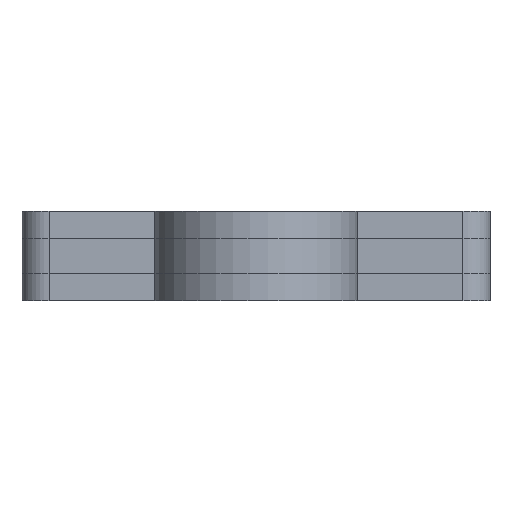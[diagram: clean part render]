
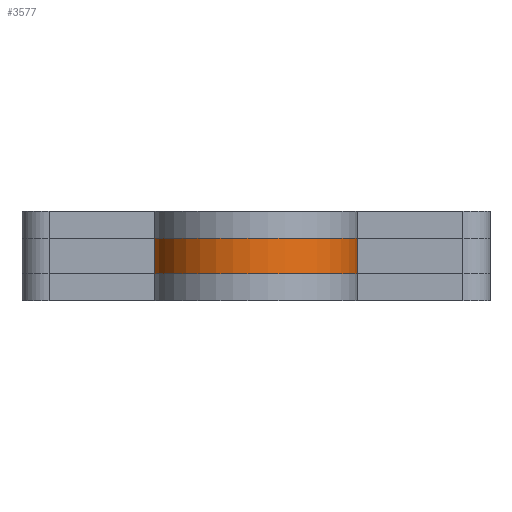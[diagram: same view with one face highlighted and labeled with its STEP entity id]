
A CAD part, left-side view. The second image highlights one B-rep face of the part: STEP entity #3577.
In plain terms, the highlighted cylindrical face has radius 3 mm (diameter 6 mm), a partial arc.
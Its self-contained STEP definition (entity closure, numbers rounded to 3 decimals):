
#367 = CYLINDRICAL_SURFACE('',#368,3.);
#368 = AXIS2_PLACEMENT_3D('',#369,#370,#371);
#369 = CARTESIAN_POINT('',(-11.5,-13.238,-6.025));
#370 = DIRECTION('',(0.,0.,1.));
#371 = DIRECTION('',(-0.993,-0.116,0.));
#1587 = VERTEX_POINT('',#1588);
#1588 = CARTESIAN_POINT('',(-8.75,-14.437,-5.9));
#1623 = PLANE('',#1624);
#1624 = AXIS2_PLACEMENT_3D('',#1625,#1626,#1627);
#1625 = CARTESIAN_POINT('',(-8.75,-19.338,-6.35));
#1626 = DIRECTION('',(-1.,0.,0.));
#1627 = DIRECTION('',(0.,1.,0.));
#1694 = VERTEX_POINT('',#1695);
#1695 = CARTESIAN_POINT('',(-9.1,-11.438,-5.9));
#1716 = EDGE_CURVE('',#1694,#1587,#1717,.T.);
#1717 = SURFACE_CURVE('',#1718,(#1723,#1730),.PCURVE_S1.);
#1718 = CIRCLE('',#1719,3.);
#1719 = AXIS2_PLACEMENT_3D('',#1720,#1721,#1722);
#1720 = CARTESIAN_POINT('',(-11.5,-13.238,-5.9));
#1721 = DIRECTION('',(0.,0.,1.));
#1722 = DIRECTION('',(1.,0.,0.));
#1723 = PCURVE('',#367,#1724);
#1724 = DEFINITIONAL_REPRESENTATION('',(#1725),#1729);
#1725 = LINE('',#1726,#1727);
#1726 = CARTESIAN_POINT('',(-3.258,0.125));
#1727 = VECTOR('',#1728,1.);
#1728 = DIRECTION('',(1.,0.));
#1729 = ( GEOMETRIC_REPRESENTATION_CONTEXT(2) 
PARAMETRIC_REPRESENTATION_CONTEXT() REPRESENTATION_CONTEXT('2D SPACE',''
  ) );
#1730 = PCURVE('',#1731,#1736);
#1731 = CYLINDRICAL_SURFACE('',#1732,3.);
#1732 = AXIS2_PLACEMENT_3D('',#1733,#1734,#1735);
#1733 = CARTESIAN_POINT('',(-11.5,-13.238,-6.025));
#1734 = DIRECTION('',(0.,0.,1.));
#1735 = DIRECTION('',(-0.993,-0.116,0.));
#1736 = DEFINITIONAL_REPRESENTATION('',(#1737),#1741);
#1737 = LINE('',#1738,#1739);
#1738 = CARTESIAN_POINT('',(-3.258,0.125));
#1739 = VECTOR('',#1740,1.);
#1740 = DIRECTION('',(1.,0.));
#1741 = ( GEOMETRIC_REPRESENTATION_CONTEXT(2) 
PARAMETRIC_REPRESENTATION_CONTEXT() REPRESENTATION_CONTEXT('2D SPACE',''
  ) );
#1817 = PLANE('',#1818);
#1818 = AXIS2_PLACEMENT_3D('',#1819,#1820,#1821);
#1819 = CARTESIAN_POINT('',(-9.1,-12.25,-6.025));
#1820 = DIRECTION('',(1.,0.,0.));
#1821 = DIRECTION('',(0.,0.,-1.));
#3474 = EDGE_CURVE('',#1587,#3475,#3477,.T.);
#3475 = VERTEX_POINT('',#3476);
#3476 = CARTESIAN_POINT('',(-8.75,-14.437,-6.95));
#3477 = SURFACE_CURVE('',#3478,(#3482,#3489),.PCURVE_S1.);
#3478 = LINE('',#3479,#3480);
#3479 = CARTESIAN_POINT('',(-8.75,-14.437,-6.025));
#3480 = VECTOR('',#3481,1.);
#3481 = DIRECTION('',(0.,0.,-1.));
#3482 = PCURVE('',#1623,#3483);
#3483 = DEFINITIONAL_REPRESENTATION('',(#3484),#3488);
#3484 = LINE('',#3485,#3486);
#3485 = CARTESIAN_POINT('',(4.901,-0.325));
#3486 = VECTOR('',#3487,1.);
#3487 = DIRECTION('',(0.,1.));
#3488 = ( GEOMETRIC_REPRESENTATION_CONTEXT(2) 
PARAMETRIC_REPRESENTATION_CONTEXT() REPRESENTATION_CONTEXT('2D SPACE',''
  ) );
#3489 = PCURVE('',#1731,#3490);
#3490 = DEFINITIONAL_REPRESENTATION('',(#3491),#3495);
#3491 = LINE('',#3492,#3493);
#3492 = CARTESIAN_POINT('',(2.614,0.));
#3493 = VECTOR('',#3494,1.);
#3494 = DIRECTION('',(0.,-1.));
#3495 = ( GEOMETRIC_REPRESENTATION_CONTEXT(2) 
PARAMETRIC_REPRESENTATION_CONTEXT() REPRESENTATION_CONTEXT('2D SPACE',''
  ) );
#3577 = ADVANCED_FACE('',(#3578),#1731,.T.);
#3578 = FACE_BOUND('',#3579,.T.);
#3579 = EDGE_LOOP('',(#3580,#3603,#3630,#3631));
#3580 = ORIENTED_EDGE('',*,*,#3581,.F.);
#3581 = EDGE_CURVE('',#3582,#1694,#3584,.T.);
#3582 = VERTEX_POINT('',#3583);
#3583 = CARTESIAN_POINT('',(-9.1,-11.438,-6.95));
#3584 = SURFACE_CURVE('',#3585,(#3589,#3596),.PCURVE_S1.);
#3585 = LINE('',#3586,#3587);
#3586 = CARTESIAN_POINT('',(-9.1,-11.438,-6.025));
#3587 = VECTOR('',#3588,1.);
#3588 = DIRECTION('',(0.,0.,1.));
#3589 = PCURVE('',#1731,#3590);
#3590 = DEFINITIONAL_REPRESENTATION('',(#3591),#3595);
#3591 = LINE('',#3592,#3593);
#3592 = CARTESIAN_POINT('',(-2.614,0.));
#3593 = VECTOR('',#3594,1.);
#3594 = DIRECTION('',(0.,1.));
#3595 = ( GEOMETRIC_REPRESENTATION_CONTEXT(2) 
PARAMETRIC_REPRESENTATION_CONTEXT() REPRESENTATION_CONTEXT('2D SPACE',''
  ) );
#3596 = PCURVE('',#1817,#3597);
#3597 = DEFINITIONAL_REPRESENTATION('',(#3598),#3602);
#3598 = LINE('',#3599,#3600);
#3599 = CARTESIAN_POINT('',(0.,0.812));
#3600 = VECTOR('',#3601,1.);
#3601 = DIRECTION('',(-1.,0.));
#3602 = ( GEOMETRIC_REPRESENTATION_CONTEXT(2) 
PARAMETRIC_REPRESENTATION_CONTEXT() REPRESENTATION_CONTEXT('2D SPACE',''
  ) );
#3603 = ORIENTED_EDGE('',*,*,#3604,.F.);
#3604 = EDGE_CURVE('',#3475,#3582,#3605,.T.);
#3605 = SURFACE_CURVE('',#3606,(#3611,#3618),.PCURVE_S1.);
#3606 = CIRCLE('',#3607,3.);
#3607 = AXIS2_PLACEMENT_3D('',#3608,#3609,#3610);
#3608 = CARTESIAN_POINT('',(-11.5,-13.238,-6.95));
#3609 = DIRECTION('',(0.,0.,-1.));
#3610 = DIRECTION('',(1.,0.,0.));
#3611 = PCURVE('',#1731,#3612);
#3612 = DEFINITIONAL_REPRESENTATION('',(#3613),#3617);
#3613 = LINE('',#3614,#3615);
#3614 = CARTESIAN_POINT('',(3.025,-0.925));
#3615 = VECTOR('',#3616,1.);
#3616 = DIRECTION('',(-1.,0.));
#3617 = ( GEOMETRIC_REPRESENTATION_CONTEXT(2) 
PARAMETRIC_REPRESENTATION_CONTEXT() REPRESENTATION_CONTEXT('2D SPACE',''
  ) );
#3618 = PCURVE('',#3619,#3624);
#3619 = CYLINDRICAL_SURFACE('',#3620,3.);
#3620 = AXIS2_PLACEMENT_3D('',#3621,#3622,#3623);
#3621 = CARTESIAN_POINT('',(-11.5,-13.238,-6.825));
#3622 = DIRECTION('',(0.,0.,1.));
#3623 = DIRECTION('',(-0.993,-0.116,0.));
#3624 = DEFINITIONAL_REPRESENTATION('',(#3625),#3629);
#3625 = LINE('',#3626,#3627);
#3626 = CARTESIAN_POINT('',(3.025,-0.125));
#3627 = VECTOR('',#3628,1.);
#3628 = DIRECTION('',(-1.,0.));
#3629 = ( GEOMETRIC_REPRESENTATION_CONTEXT(2) 
PARAMETRIC_REPRESENTATION_CONTEXT() REPRESENTATION_CONTEXT('2D SPACE',''
  ) );
#3630 = ORIENTED_EDGE('',*,*,#3474,.F.);
#3631 = ORIENTED_EDGE('',*,*,#1716,.F.);
